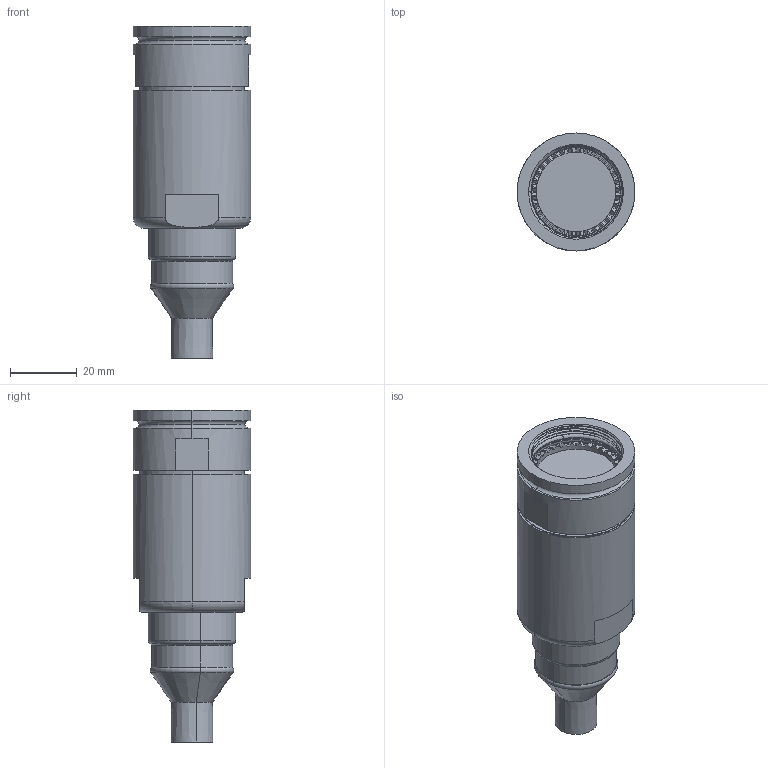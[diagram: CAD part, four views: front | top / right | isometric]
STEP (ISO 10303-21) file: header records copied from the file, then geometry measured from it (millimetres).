
FILE_DESCRIPTION (( 'STEP AP214' ), '1' );
FILE_NAME ('Q38SHELL-STX-19-XXXX-HX.STEP', '2025-09-09T18:24:59', ( '' ), ( '' ), 'SwSTEP 2.0', 'SolidWorks 2024', '' );
FILE_SCHEMA (( 'AUTOMOTIVE_DESIGN' ));
Length unit declared in the file: millimetre
Products named in the file (1): Q38SHELL-STX-19-XXXX-HX
Bounding box: 35.38 x 35.38 x 99.78 mm (x, y, z)
Volume: 63927.3 mm3; surface area: 15183.4 mm2
Topology: 2 solids, 2 shells, 230 faces, 606 edges, 394 vertices
Faces by surface type: plane 154, cylinder 37, cone 20, torus 16, bspline 3
Entity records: 8129 total; most frequent: CARTESIAN_POINT 2615, ORIENTED_EDGE 1212, DIRECTION 1166, EDGE_CURVE 606, AXIS2_PLACEMENT_3D 484, VERTEX_POINT 394, CIRCLE 256, EDGE_LOOP 246
